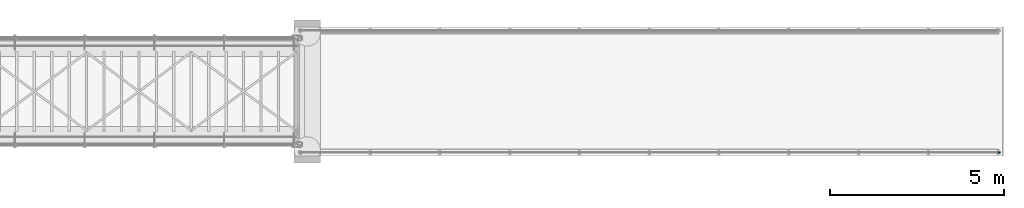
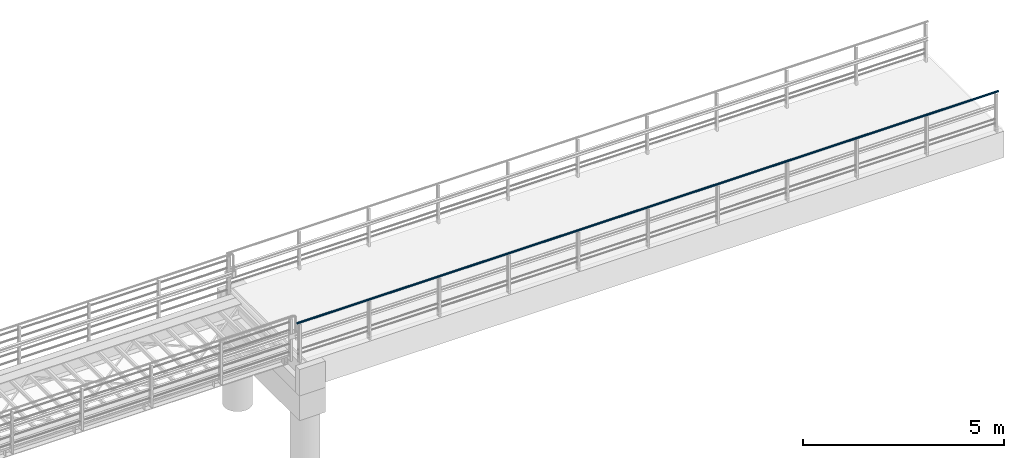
# One storey, part 14 of 31: 1 beam.
"""IFC2X3 building model written with IfcOpenShell, lengths in millimetres."""

from ifc_helpers import new_model, si_unit, frame, origin_with_axes, place, context, subcontext, project, spatial, faceted_brep, material, type_object, element, save


model = new_model("IFC2X3")

# Units and contexts
model_context = context("Model", 3, precision=1e-05, world=origin_with_axes())
body_context = subcontext(model_context, "Body", "Model", "MODEL_VIEW")
ifc_project = project(units=[si_unit("LENGTHUNIT", "METRE", prefix="MILLI"), si_unit("AREAUNIT", "SQUARE_METRE"), si_unit("VOLUMEUNIT", "CUBIC_METRE"), si_unit("MASSUNIT", "GRAM", prefix="KILO"), si_unit("TIMEUNIT", "SECOND"), si_unit("PLANEANGLEUNIT", "RADIAN"), si_unit("SOLIDANGLEUNIT", "STERADIAN"), si_unit("THERMODYNAMICTEMPERATUREUNIT", "DEGREE_CELSIUS"), si_unit("LUMINOUSINTENSITYUNIT", "LUMEN")], contexts=[model_context])

# Site, building, storey
site_placement = place(None, origin_with_axes())
site = spatial("IfcSite", under=ifc_project, at=site_placement, Name="Undefined", CompositionType="ELEMENT")
building_placement = place(site_placement, origin_with_axes())
building = spatial("IfcBuilding", under=site, at=building_placement, Name="Undefined", CompositionType="ELEMENT")
storey_placement = place(building_placement, origin_with_axes())
storey = spatial("IfcBuildingStorey", under=building, at=storey_placement, Name="Undefined", CompositionType="ELEMENT", Elevation=0.0)

# Beam
ifc_material = material(Name="STEEL/S355J2+N")
beam_type = type_object("IfcBeamType", Name="CFCHS60.3*3.2", PredefinedType="NOTDEFINED")
beam_placement = place(storey_placement, frame((39650.0, -600.0, 1069.85), z_axis=(0.0, -1.0, 0.0), x_axis=(-1.0, 0.0, 0.0)))
element("IfcBeam", 1, at=beam_placement, inside=storey, type_object=beam_type, material=ifc_material, Name="BB-REKKVERK", context=body_context, shape_type="Brep", body=[
    faceted_brep([(0.0, -26.95, 0.0), (0.0, -24.898553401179, 10.3133185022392), (20150.0, -24.8985534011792, 10.3133185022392), (20150.0, -26.95, 0.0), (0.0, -19.0565277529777, 19.0565277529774), (20150.0, -19.0565277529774, 19.0565277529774), (0.0, -10.3133185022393, 24.8985534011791), (20150.0, -10.3133185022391, 24.8985534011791), (0.0, 0.0, 26.95), (20150.0, 0.0, 26.95), (0.0, 10.3133185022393, 24.8985534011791), (20150.0, 10.3133185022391, 24.8985534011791), (0.0, 19.0565277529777, 19.0565277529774), (20150.0, 19.0565277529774, 19.0565277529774), (0.0, 24.898553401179, 10.3133185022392), (20150.0, 24.8985534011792, 10.3133185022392), (0.0, 26.95, 0.0), (20150.0, 26.95, 0.0), (0.0, 24.898553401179, -10.3133185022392), (20150.0, 24.8985534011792, -10.3133185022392), (0.0, 19.0565277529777, -19.0565277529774), (20150.0, 19.0565277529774, -19.0565277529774), (0.0, 10.3133185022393, -24.8985534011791), (20150.0, 10.3133185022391, -24.8985534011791), (0.0, 0.0, -26.95), (20150.0, 0.0, -26.95), (0.0, -10.3133185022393, -24.8985534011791), (20150.0, -10.3133185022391, -24.8985534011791), (0.0, -19.0565277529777, -19.0565277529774), (20150.0, -19.0565277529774, -19.0565277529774), (0.0, -24.898553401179, -10.3133185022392), (20150.0, -24.8985534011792, -10.3133185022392), (0.0, -30.15, 0.0), (0.0, -27.8549679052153, -11.5379054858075), (20150.0, -27.8549679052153, -11.5379054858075), (20150.0, -30.1500000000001, 0.0), (0.0, -21.3192694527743, -21.3192694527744), (20150.0, -21.3192694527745, -21.3192694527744), (0.0, -11.5379054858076, -27.8549679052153), (20150.0, -11.5379054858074, -27.8549679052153), (0.0, 0.0, -30.15), (20150.0, 0.0, -30.15), (0.0, 11.5379054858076, -27.8549679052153), (20150.0, 11.5379054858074, -27.8549679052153), (0.0, 21.3192694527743, -21.3192694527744), (20150.0, 21.3192694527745, -21.3192694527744), (0.0, 27.8549679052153, -11.5379054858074), (20150.0, 27.8549679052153, -11.5379054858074), (0.0, 30.15, 0.0), (20150.0, 30.1500000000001, 0.0), (0.0, 27.8549679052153, 11.5379054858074), (20150.0, 27.8549679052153, 11.5379054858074), (0.0, 21.3192694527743, 21.3192694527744), (20150.0, 21.3192694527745, 21.3192694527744), (0.0, 11.5379054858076, 27.8549679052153), (20150.0, 11.5379054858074, 27.8549679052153), (0.0, 0.0, 30.15), (20150.0, 0.0, 30.15), (0.0, -11.5379054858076, 27.8549679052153), (20150.0, -11.5379054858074, 27.8549679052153), (0.0, -21.3192694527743, 21.3192694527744), (20150.0, -21.3192694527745, 21.3192694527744), (0.0, -27.8549679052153, 11.5379054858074), (20150.0, -27.8549679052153, 11.5379054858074)], [[[0, 1, 2, 3]], [[1, 4, 5, 2]], [[4, 6, 7, 5]], [[6, 8, 9, 7]], [[8, 10, 11, 9]], [[10, 12, 13, 11]], [[12, 14, 15, 13]], [[14, 16, 17, 15]], [[16, 18, 19, 17]], [[18, 20, 21, 19]], [[20, 22, 23, 21]], [[22, 24, 25, 23]], [[24, 26, 27, 25]], [[26, 28, 29, 27]], [[28, 30, 31, 29]], [[30, 0, 3, 31]], [[32, 33, 34, 35]], [[33, 36, 37, 34]], [[36, 38, 39, 37]], [[38, 40, 41, 39]], [[40, 42, 43, 41]], [[42, 44, 45, 43]], [[44, 46, 47, 45]], [[46, 48, 49, 47]], [[48, 50, 51, 49]], [[50, 52, 53, 51]], [[52, 54, 55, 53]], [[54, 56, 57, 55]], [[56, 58, 59, 57]], [[58, 60, 61, 59]], [[60, 62, 63, 61]], [[62, 32, 35, 63]], [[37, 39, 41, 43, 45, 47, 49, 51, 53, 55, 57, 59, 61, 63, 35, 34], [5, 7, 9, 11, 13, 15, 17, 19, 21, 23, 25, 27, 29, 31, 3, 2]], [[62, 60, 58, 56, 54, 52, 50, 48, 46, 44, 42, 40, 38, 36, 33, 32], [30, 28, 26, 24, 22, 20, 18, 16, 14, 12, 10, 8, 6, 4, 1, 0]]]),
])

save(model, "model.ifc")
